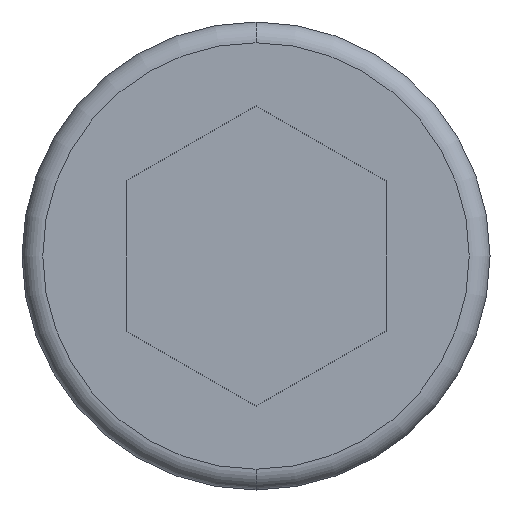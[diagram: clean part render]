
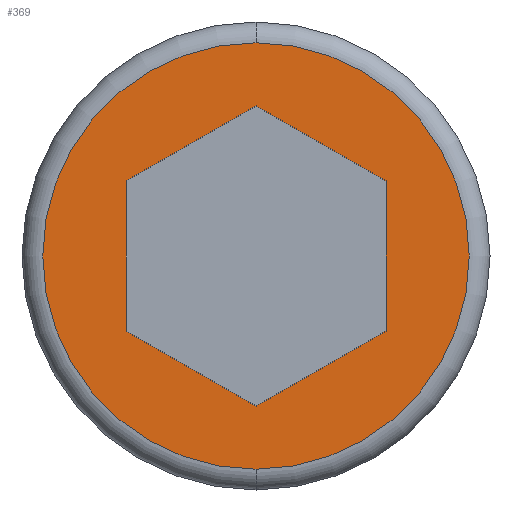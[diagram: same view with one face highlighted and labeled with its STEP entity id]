
A CAD part, front view. The second image highlights one B-rep face of the part: STEP entity #369.
In plain terms, the highlighted planar face has unit normal (0, -1, 0).
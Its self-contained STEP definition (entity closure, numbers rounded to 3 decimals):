
#11 = VERTEX_POINT ( 'NONE', #29 ) ;
#18 = EDGE_CURVE ( 'NONE', #11, #253, #470, .T. ) ;
#20 = EDGE_CURVE ( 'NONE', #698, #478, #649, .T. ) ;
#29 = CARTESIAN_POINT ( 'NONE',  ( 0., -12., -8.2 ) ) ;
#32 = EDGE_LOOP ( 'NONE', ( #366, #680, #710, #422, #120, #668 ) ) ;
#38 = CARTESIAN_POINT ( 'NONE',  ( -5., -12., 2.887 ) ) ;
#50 = CARTESIAN_POINT ( 'NONE',  ( -5., -12., 2.887 ) ) ;
#53 = LINE ( 'NONE', #708, #743 ) ;
#59 = EDGE_CURVE ( 'NONE', #344, #698, #428, .T. ) ;
#84 = LINE ( 'NONE', #117, #229 ) ;
#111 = VECTOR ( 'NONE', #541, 1000. ) ;
#117 = CARTESIAN_POINT ( 'NONE',  ( 5., -12., 2.887 ) ) ;
#120 = ORIENTED_EDGE ( 'NONE', *, *, #59, .F. ) ;
#126 = CARTESIAN_POINT ( 'NONE',  ( 0., -12., -5.774 ) ) ;
#161 = DIRECTION ( 'NONE',  ( 0., 0., -1. ) ) ;
#208 = EDGE_CURVE ( 'NONE', #656, #403, #584, .T. ) ;
#211 = CARTESIAN_POINT ( 'NONE',  ( -5., -12., -2.887 ) ) ;
#218 = DIRECTION ( 'NONE',  ( 0., -1., 0. ) ) ;
#229 = VECTOR ( 'NONE', #260, 1000. ) ;
#231 = ORIENTED_EDGE ( 'NONE', *, *, #18, .T. ) ;
#239 = VERTEX_POINT ( 'NONE', #711 ) ;
#252 = CARTESIAN_POINT ( 'NONE',  ( 0., -12., 5.774 ) ) ;
#253 = VERTEX_POINT ( 'NONE', #308 ) ;
#260 = DIRECTION ( 'NONE',  ( -0.866, 0., 0.5 ) ) ;
#265 = CARTESIAN_POINT ( 'NONE',  ( 0., -12., 0. ) ) ;
#278 = EDGE_CURVE ( 'NONE', #239, #344, #84, .T. ) ;
#279 = CARTESIAN_POINT ( 'NONE',  ( -5., -12., -2.887 ) ) ;
#281 = CARTESIAN_POINT ( 'NONE',  ( 0., -12., 0. ) ) ;
#290 = AXIS2_PLACEMENT_3D ( 'NONE', #265, #310, #492 ) ;
#308 = CARTESIAN_POINT ( 'NONE',  ( 0., -12., 8.2 ) ) ;
#310 = DIRECTION ( 'NONE',  ( 0., -1., 0. ) ) ;
#320 = FACE_OUTER_BOUND ( 'NONE', #322, .T. ) ;
#322 = EDGE_LOOP ( 'NONE', ( #231, #462 ) ) ;
#327 = CARTESIAN_POINT ( 'NONE',  ( 0., -12., 0. ) ) ;
#330 = CIRCLE ( 'NONE', #530, 8.2 ) ;
#344 = VERTEX_POINT ( 'NONE', #252 ) ;
#366 = ORIENTED_EDGE ( 'NONE', *, *, #654, .F. ) ;
#369 = ADVANCED_FACE ( 'NONE', ( #320, #606 ), #503, .T. ) ;
#403 = VERTEX_POINT ( 'NONE', #558 ) ;
#410 = DIRECTION ( 'NONE',  ( 0., 0., 1. ) ) ;
#418 = EDGE_CURVE ( 'NONE', #478, #656, #659, .T. ) ;
#422 = ORIENTED_EDGE ( 'NONE', *, *, #20, .F. ) ;
#428 = LINE ( 'NONE', #644, #111 ) ;
#445 = EDGE_CURVE ( 'NONE', #253, #11, #330, .T. ) ;
#454 = DIRECTION ( 'NONE',  ( 0., 0., -1. ) ) ;
#462 = ORIENTED_EDGE ( 'NONE', *, *, #445, .T. ) ;
#470 = CIRCLE ( 'NONE', #515, 8.2 ) ;
#478 = VERTEX_POINT ( 'NONE', #279 ) ;
#488 = VECTOR ( 'NONE', #454, 1000. ) ;
#492 = DIRECTION ( 'NONE',  ( 0., 0., -1. ) ) ;
#503 = PLANE ( 'NONE',  #290 ) ;
#512 = DIRECTION ( 'NONE',  ( 0., 0., -1. ) ) ;
#515 = AXIS2_PLACEMENT_3D ( 'NONE', #281, #218, #161 ) ;
#530 = AXIS2_PLACEMENT_3D ( 'NONE', #327, #632, #512 ) ;
#541 = DIRECTION ( 'NONE',  ( -0.866, 0., -0.5 ) ) ;
#551 = CARTESIAN_POINT ( 'NONE',  ( 0., -12., -5.774 ) ) ;
#558 = CARTESIAN_POINT ( 'NONE',  ( 5., -12., -2.887 ) ) ;
#584 = LINE ( 'NONE', #126, #714 ) ;
#603 = DIRECTION ( 'NONE',  ( 0.866, 0., 0.5 ) ) ;
#606 = FACE_BOUND ( 'NONE', #32, .T. ) ;
#632 = DIRECTION ( 'NONE',  ( 0., -1., 0. ) ) ;
#644 = CARTESIAN_POINT ( 'NONE',  ( 0., -12., 5.774 ) ) ;
#649 = LINE ( 'NONE', #38, #488 ) ;
#654 = EDGE_CURVE ( 'NONE', #403, #239, #53, .T. ) ;
#656 = VERTEX_POINT ( 'NONE', #551 ) ;
#659 = LINE ( 'NONE', #211, #713 ) ;
#668 = ORIENTED_EDGE ( 'NONE', *, *, #278, .F. ) ;
#680 = ORIENTED_EDGE ( 'NONE', *, *, #208, .F. ) ;
#683 = DIRECTION ( 'NONE',  ( 0.866, 0., -0.5 ) ) ;
#698 = VERTEX_POINT ( 'NONE', #50 ) ;
#708 = CARTESIAN_POINT ( 'NONE',  ( 5., -12., -2.887 ) ) ;
#710 = ORIENTED_EDGE ( 'NONE', *, *, #418, .F. ) ;
#711 = CARTESIAN_POINT ( 'NONE',  ( 5., -12., 2.887 ) ) ;
#713 = VECTOR ( 'NONE', #683, 1000. ) ;
#714 = VECTOR ( 'NONE', #603, 1000. ) ;
#743 = VECTOR ( 'NONE', #410, 1000. ) ;
